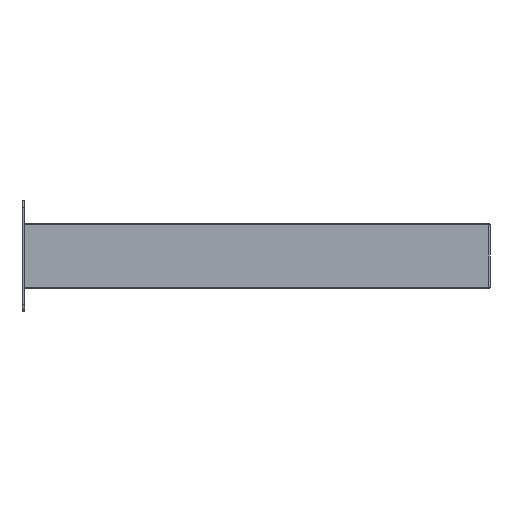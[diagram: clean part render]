
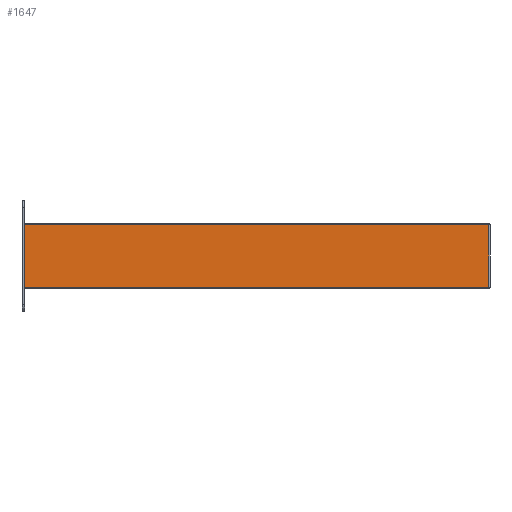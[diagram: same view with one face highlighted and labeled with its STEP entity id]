
A CAD part, left-side view. The second image highlights one B-rep face of the part: STEP entity #1647.
In plain terms, the highlighted planar face has unit normal (-1, 0, 0).
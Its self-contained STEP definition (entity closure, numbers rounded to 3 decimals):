
#47=PLANE('',#1800);
#97=LINE('',#2566,#241);
#100=LINE('',#2580,#244);
#112=LINE('',#2618,#256);
#116=LINE('',#2627,#260);
#241=VECTOR('',#2036,10.);
#244=VECTOR('',#2051,10.);
#256=VECTOR('',#2095,10.);
#260=VECTOR('',#2109,10.);
#447=FACE_OUTER_BOUND('',#551,.T.);
#551=EDGE_LOOP('',(#1249,#1250,#1251,#1252));
#755=VERTEX_POINT('',#2559);
#757=VERTEX_POINT('',#2564);
#758=VERTEX_POINT('',#2569);
#761=VERTEX_POINT('',#2576);
#917=EDGE_CURVE('',#757,#755,#97,.T.);
#924=EDGE_CURVE('',#758,#761,#100,.T.);
#944=EDGE_CURVE('',#755,#758,#112,.T.);
#948=EDGE_CURVE('',#757,#761,#116,.T.);
#1249=ORIENTED_EDGE('',*,*,#917,.F.);
#1250=ORIENTED_EDGE('',*,*,#948,.T.);
#1251=ORIENTED_EDGE('',*,*,#924,.F.);
#1252=ORIENTED_EDGE('',*,*,#944,.F.);
#1647=ADVANCED_FACE('',(#447),#47,.T.);
#1800=AXIS2_PLACEMENT_3D('',#2626,#2107,#2108);
#2036=DIRECTION('',(0.,-1.,0.));
#2051=DIRECTION('',(0.,1.,0.));
#2095=DIRECTION('',(0.,0.,-1.));
#2107=DIRECTION('center_axis',(-1.,0.,0.));
#2108=DIRECTION('ref_axis',(0.,0.,-1.));
#2109=DIRECTION('',(0.,0.,-1.));
#2559=CARTESIAN_POINT('',(-350.,-714.,48.));
#2564=CARTESIAN_POINT('',(-350.,0.,48.));
#2566=CARTESIAN_POINT('',(-350.,0.,48.));
#2569=CARTESIAN_POINT('',(-350.,-714.,-48.));
#2576=CARTESIAN_POINT('',(-350.,0.,-48.));
#2580=CARTESIAN_POINT('',(-350.,0.,-48.));
#2618=CARTESIAN_POINT('',(-350.,-714.,25.));
#2626=CARTESIAN_POINT('Origin',(-350.,0.,50.));
#2627=CARTESIAN_POINT('',(-350.,0.,50.));
